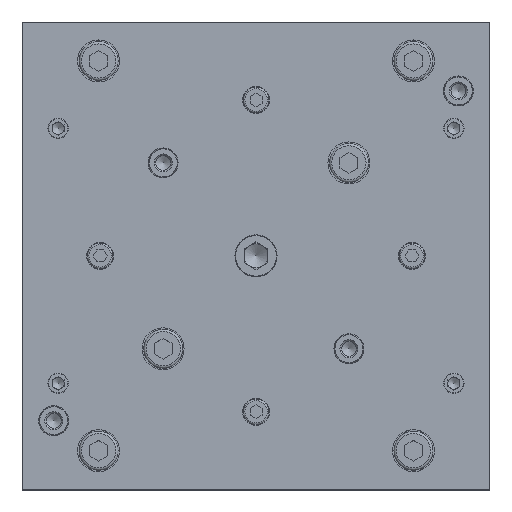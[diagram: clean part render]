
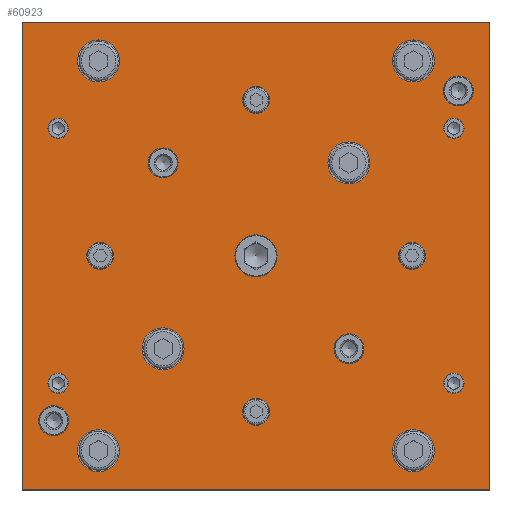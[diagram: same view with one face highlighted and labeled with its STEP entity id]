
A CAD part, top view. The second image highlights one B-rep face of the part: STEP entity #60923.
In plain terms, the highlighted planar face has unit normal (0, 0, 1).
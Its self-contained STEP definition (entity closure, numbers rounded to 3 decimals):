
#2945=FACE_BOUND('',#8112,.T.);
#2946=FACE_BOUND('',#8113,.T.);
#2947=FACE_BOUND('',#8114,.T.);
#2948=FACE_BOUND('',#8115,.T.);
#2949=FACE_BOUND('',#8116,.T.);
#2950=FACE_BOUND('',#8117,.T.);
#2951=FACE_BOUND('',#8118,.T.);
#2952=FACE_BOUND('',#8119,.T.);
#2953=FACE_BOUND('',#8120,.T.);
#2954=FACE_BOUND('',#8121,.T.);
#2955=FACE_BOUND('',#8122,.T.);
#2956=FACE_BOUND('',#8123,.T.);
#2957=FACE_BOUND('',#8124,.T.);
#2958=FACE_BOUND('',#8125,.T.);
#2959=FACE_BOUND('',#8126,.T.);
#2960=FACE_BOUND('',#8127,.T.);
#2961=FACE_BOUND('',#8128,.T.);
#2962=FACE_BOUND('',#8129,.T.);
#2963=FACE_BOUND('',#8130,.T.);
#4745=FACE_OUTER_BOUND('',#8111,.T.);
#8111=EDGE_LOOP('',(#48594,#48595,#48596,#48597));
#8112=EDGE_LOOP('',(#48598));
#8113=EDGE_LOOP('',(#48599));
#8114=EDGE_LOOP('',(#48600));
#8115=EDGE_LOOP('',(#48601));
#8116=EDGE_LOOP('',(#48602));
#8117=EDGE_LOOP('',(#48603));
#8118=EDGE_LOOP('',(#48604));
#8119=EDGE_LOOP('',(#48605));
#8120=EDGE_LOOP('',(#48606));
#8121=EDGE_LOOP('',(#48607));
#8122=EDGE_LOOP('',(#48608));
#8123=EDGE_LOOP('',(#48609));
#8124=EDGE_LOOP('',(#48610));
#8125=EDGE_LOOP('',(#48611));
#8126=EDGE_LOOP('',(#48612));
#8127=EDGE_LOOP('',(#48613));
#8128=EDGE_LOOP('',(#48614));
#8129=EDGE_LOOP('',(#48615));
#8130=EDGE_LOOP('',(#48616));
#12316=LINE('',#103304,#17218);
#12319=LINE('',#103310,#17221);
#12322=LINE('',#103316,#17224);
#12325=LINE('',#103320,#17227);
#17218=VECTOR('',#79483,10.);
#17221=VECTOR('',#79488,10.);
#17224=VECTOR('',#79493,10.);
#17227=VECTOR('',#79498,10.);
#21729=CIRCLE('',#66289,4.5);
#21733=CIRCLE('',#66296,4.5);
#21737=CIRCLE('',#66303,4.5);
#21741=CIRCLE('',#66310,4.5);
#21751=CIRCLE('',#66330,3.39);
#21753=CIRCLE('',#66333,3.39);
#21755=CIRCLE('',#66336,3.39);
#21757=CIRCLE('',#66339,3.39);
#21761=CIRCLE('',#66345,7.);
#21765=CIRCLE('',#66352,7.);
#21767=CIRCLE('',#66356,5.);
#21769=CIRCLE('',#66359,5.);
#21773=CIRCLE('',#66365,7.);
#21777=CIRCLE('',#66372,7.);
#21781=CIRCLE('',#66379,7.);
#21785=CIRCLE('',#66386,7.);
#21788=CIRCLE('',#66391,5.);
#21790=CIRCLE('',#66394,5.);
#21791=CIRCLE('',#66396,7.011);
#26812=VERTEX_POINT('',#103091);
#26816=VERTEX_POINT('',#103104);
#26820=VERTEX_POINT('',#103117);
#26824=VERTEX_POINT('',#103130);
#26834=VERTEX_POINT('',#103166);
#26836=VERTEX_POINT('',#103172);
#26838=VERTEX_POINT('',#103178);
#26840=VERTEX_POINT('',#103184);
#26844=VERTEX_POINT('',#103195);
#26848=VERTEX_POINT('',#103208);
#26850=VERTEX_POINT('',#103216);
#26852=VERTEX_POINT('',#103222);
#26856=VERTEX_POINT('',#103233);
#26860=VERTEX_POINT('',#103246);
#26864=VERTEX_POINT('',#103259);
#26868=VERTEX_POINT('',#103272);
#26871=VERTEX_POINT('',#103282);
#26873=VERTEX_POINT('',#103288);
#26874=VERTEX_POINT('',#103292);
#26878=VERTEX_POINT('',#103301);
#26879=VERTEX_POINT('',#103303);
#26881=VERTEX_POINT('',#103309);
#26883=VERTEX_POINT('',#103315);
#34543=EDGE_CURVE('',#26812,#26812,#21729,.T.);
#34549=EDGE_CURVE('',#26816,#26816,#21733,.T.);
#34555=EDGE_CURVE('',#26820,#26820,#21737,.T.);
#34561=EDGE_CURVE('',#26824,#26824,#21741,.T.);
#34577=EDGE_CURVE('',#26834,#26834,#21751,.T.);
#34580=EDGE_CURVE('',#26836,#26836,#21753,.T.);
#34583=EDGE_CURVE('',#26838,#26838,#21755,.T.);
#34586=EDGE_CURVE('',#26840,#26840,#21757,.T.);
#34591=EDGE_CURVE('',#26844,#26844,#21761,.T.);
#34597=EDGE_CURVE('',#26848,#26848,#21765,.T.);
#34601=EDGE_CURVE('',#26850,#26850,#21767,.T.);
#34604=EDGE_CURVE('',#26852,#26852,#21769,.T.);
#34609=EDGE_CURVE('',#26856,#26856,#21773,.T.);
#34615=EDGE_CURVE('',#26860,#26860,#21777,.T.);
#34621=EDGE_CURVE('',#26864,#26864,#21781,.T.);
#34627=EDGE_CURVE('',#26868,#26868,#21785,.T.);
#34633=EDGE_CURVE('',#26871,#26871,#21788,.T.);
#34636=EDGE_CURVE('',#26873,#26873,#21790,.T.);
#34637=EDGE_CURVE('',#26874,#26874,#21791,.T.);
#34642=EDGE_CURVE('',#26879,#26878,#12316,.T.);
#34645=EDGE_CURVE('',#26881,#26879,#12319,.T.);
#34648=EDGE_CURVE('',#26883,#26881,#12322,.T.);
#34651=EDGE_CURVE('',#26878,#26883,#12325,.T.);
#48594=ORIENTED_EDGE('',*,*,#34651,.T.);
#48595=ORIENTED_EDGE('',*,*,#34648,.T.);
#48596=ORIENTED_EDGE('',*,*,#34645,.T.);
#48597=ORIENTED_EDGE('',*,*,#34642,.T.);
#48598=ORIENTED_EDGE('',*,*,#34543,.T.);
#48599=ORIENTED_EDGE('',*,*,#34549,.T.);
#48600=ORIENTED_EDGE('',*,*,#34555,.T.);
#48601=ORIENTED_EDGE('',*,*,#34561,.T.);
#48602=ORIENTED_EDGE('',*,*,#34577,.T.);
#48603=ORIENTED_EDGE('',*,*,#34580,.T.);
#48604=ORIENTED_EDGE('',*,*,#34583,.T.);
#48605=ORIENTED_EDGE('',*,*,#34586,.T.);
#48606=ORIENTED_EDGE('',*,*,#34591,.T.);
#48607=ORIENTED_EDGE('',*,*,#34597,.T.);
#48608=ORIENTED_EDGE('',*,*,#34601,.T.);
#48609=ORIENTED_EDGE('',*,*,#34604,.T.);
#48610=ORIENTED_EDGE('',*,*,#34609,.T.);
#48611=ORIENTED_EDGE('',*,*,#34615,.T.);
#48612=ORIENTED_EDGE('',*,*,#34621,.T.);
#48613=ORIENTED_EDGE('',*,*,#34627,.T.);
#48614=ORIENTED_EDGE('',*,*,#34633,.T.);
#48615=ORIENTED_EDGE('',*,*,#34636,.T.);
#48616=ORIENTED_EDGE('',*,*,#34637,.T.);
#58699=PLANE('',#66402);
#60923=ADVANCED_FACE('',(#4745,#2945,#2946,#2947,#2948,#2949,#2950,#2951,
#2952,#2953,#2954,#2955,#2956,#2957,#2958,#2959,#2960,#2961,#2962,#2963),
#58699,.T.);
#66289=AXIS2_PLACEMENT_3D('',#103092,#79228,#79229);
#66296=AXIS2_PLACEMENT_3D('',#103105,#79244,#79245);
#66303=AXIS2_PLACEMENT_3D('',#103118,#79260,#79261);
#66310=AXIS2_PLACEMENT_3D('',#103131,#79276,#79277);
#66330=AXIS2_PLACEMENT_3D('',#103167,#79322,#79323);
#66333=AXIS2_PLACEMENT_3D('',#103173,#79329,#79330);
#66336=AXIS2_PLACEMENT_3D('',#103179,#79336,#79337);
#66339=AXIS2_PLACEMENT_3D('',#103185,#79343,#79344);
#66345=AXIS2_PLACEMENT_3D('',#103196,#79356,#79357);
#66352=AXIS2_PLACEMENT_3D('',#103209,#79372,#79373);
#66356=AXIS2_PLACEMENT_3D('',#103217,#79382,#79383);
#66359=AXIS2_PLACEMENT_3D('',#103223,#79389,#79390);
#66365=AXIS2_PLACEMENT_3D('',#103234,#79402,#79403);
#66372=AXIS2_PLACEMENT_3D('',#103247,#79418,#79419);
#66379=AXIS2_PLACEMENT_3D('',#103260,#79434,#79435);
#66386=AXIS2_PLACEMENT_3D('',#103273,#79450,#79451);
#66391=AXIS2_PLACEMENT_3D('',#103284,#79463,#79464);
#66394=AXIS2_PLACEMENT_3D('',#103290,#79470,#79471);
#66396=AXIS2_PLACEMENT_3D('',#103293,#79474,#79475);
#66402=AXIS2_PLACEMENT_3D('',#103321,#79499,#79500);
#79228=DIRECTION('center_axis',(0.,0.,-1.));
#79229=DIRECTION('ref_axis',(1.,0.,0.));
#79244=DIRECTION('center_axis',(0.,0.,-1.));
#79245=DIRECTION('ref_axis',(1.,0.,0.));
#79260=DIRECTION('center_axis',(0.,0.,-1.));
#79261=DIRECTION('ref_axis',(1.,0.,0.));
#79276=DIRECTION('center_axis',(0.,0.,-1.));
#79277=DIRECTION('ref_axis',(1.,0.,0.));
#79322=DIRECTION('center_axis',(0.,0.,-1.));
#79323=DIRECTION('ref_axis',(1.,0.,0.));
#79329=DIRECTION('center_axis',(0.,0.,-1.));
#79330=DIRECTION('ref_axis',(1.,0.,0.));
#79336=DIRECTION('center_axis',(0.,0.,-1.));
#79337=DIRECTION('ref_axis',(1.,0.,0.));
#79343=DIRECTION('center_axis',(0.,0.,-1.));
#79344=DIRECTION('ref_axis',(1.,0.,0.));
#79356=DIRECTION('center_axis',(0.,0.,-1.));
#79357=DIRECTION('ref_axis',(1.,0.,0.));
#79372=DIRECTION('center_axis',(0.,0.,-1.));
#79373=DIRECTION('ref_axis',(1.,0.,0.));
#79382=DIRECTION('center_axis',(0.,0.,-1.));
#79383=DIRECTION('ref_axis',(1.,0.,0.));
#79389=DIRECTION('center_axis',(0.,0.,-1.));
#79390=DIRECTION('ref_axis',(1.,0.,0.));
#79402=DIRECTION('center_axis',(0.,0.,-1.));
#79403=DIRECTION('ref_axis',(1.,0.,0.));
#79418=DIRECTION('center_axis',(0.,0.,-1.));
#79419=DIRECTION('ref_axis',(1.,0.,0.));
#79434=DIRECTION('center_axis',(0.,0.,-1.));
#79435=DIRECTION('ref_axis',(1.,0.,0.));
#79450=DIRECTION('center_axis',(0.,0.,-1.));
#79451=DIRECTION('ref_axis',(1.,0.,0.));
#79463=DIRECTION('center_axis',(0.,0.,-1.));
#79464=DIRECTION('ref_axis',(-1.,0.,0.));
#79470=DIRECTION('center_axis',(0.,0.,-1.));
#79471=DIRECTION('ref_axis',(-1.,0.,0.));
#79474=DIRECTION('center_axis',(0.,0.,-1.));
#79475=DIRECTION('ref_axis',(1.,0.,0.));
#79483=DIRECTION('',(1.,0.,0.));
#79488=DIRECTION('',(0.,-1.,0.));
#79493=DIRECTION('',(-1.,0.,0.));
#79498=DIRECTION('',(0.,1.,0.));
#79499=DIRECTION('center_axis',(0.,0.,1.));
#79500=DIRECTION('ref_axis',(1.,0.,0.));
#103091=CARTESIAN_POINT('',(-4.5,52.,31.45));
#103092=CARTESIAN_POINT('Origin',(0.,52.,
31.45));
#103104=CARTESIAN_POINT('',(-4.5,-52.,31.45));
#103105=CARTESIAN_POINT('Origin',(0.,-52.,
31.45));
#103117=CARTESIAN_POINT('',(47.5,0.,31.45));
#103118=CARTESIAN_POINT('Origin',(52.,0.,
31.45));
#103130=CARTESIAN_POINT('',(-56.5,0.,31.45));
#103131=CARTESIAN_POINT('Origin',(-52.,0.,
31.45));
#103166=CARTESIAN_POINT('',(62.583,42.5,31.45));
#103167=CARTESIAN_POINT('Origin',(65.972,42.5,31.45));
#103172=CARTESIAN_POINT('',(-69.417,-42.5,31.45));
#103173=CARTESIAN_POINT('Origin',(-66.028,-42.5,31.45));
#103178=CARTESIAN_POINT('',(-69.417,42.5,31.45));
#103179=CARTESIAN_POINT('Origin',(-66.028,42.5,31.45));
#103184=CARTESIAN_POINT('',(62.583,-42.5,31.45));
#103185=CARTESIAN_POINT('Origin',(65.972,-42.5,31.45));
#103195=CARTESIAN_POINT('',(-38.028,-31.,31.45));
#103196=CARTESIAN_POINT('Origin',(-31.028,-31.,31.45));
#103208=CARTESIAN_POINT('',(23.972,31.,31.45));
#103209=CARTESIAN_POINT('Origin',(30.972,31.,31.45));
#103216=CARTESIAN_POINT('',(25.972,-31.,31.45));
#103217=CARTESIAN_POINT('Origin',(30.972,-31.,31.45));
#103222=CARTESIAN_POINT('',(-36.028,31.,31.45));
#103223=CARTESIAN_POINT('Origin',(-31.028,31.,31.45));
#103233=CARTESIAN_POINT('',(-59.528,65.,31.45));
#103234=CARTESIAN_POINT('Origin',(-52.528,65.,31.45));
#103246=CARTESIAN_POINT('',(45.472,-65.,31.45));
#103247=CARTESIAN_POINT('Origin',(52.472,-65.,31.45));
#103259=CARTESIAN_POINT('',(-59.528,-65.,31.45));
#103260=CARTESIAN_POINT('Origin',(-52.528,-65.,31.45));
#103272=CARTESIAN_POINT('',(45.472,65.,31.45));
#103273=CARTESIAN_POINT('Origin',(52.472,65.,31.45));
#103282=CARTESIAN_POINT('',(-62.528,-55.,31.45));
#103284=CARTESIAN_POINT('Origin',(-67.528,-55.,31.45));
#103288=CARTESIAN_POINT('',(72.472,55.,31.45));
#103290=CARTESIAN_POINT('Origin',(67.472,55.,31.45));
#103292=CARTESIAN_POINT('',(-7.039,0.,31.45));
#103293=CARTESIAN_POINT('Origin',(-0.028,0.,
31.45));
#103301=CARTESIAN_POINT('',(77.972,-78.,31.45));
#103303=CARTESIAN_POINT('',(-78.028,-78.,31.45));
#103304=CARTESIAN_POINT('',(-78.028,-78.,31.45));
#103309=CARTESIAN_POINT('',(-78.028,78.,31.45));
#103310=CARTESIAN_POINT('',(-78.028,78.,31.45));
#103315=CARTESIAN_POINT('',(77.972,78.,31.45));
#103316=CARTESIAN_POINT('',(77.972,78.,31.45));
#103320=CARTESIAN_POINT('',(77.972,-78.,31.45));
#103321=CARTESIAN_POINT('Origin',(-0.028,0.,
31.45));
